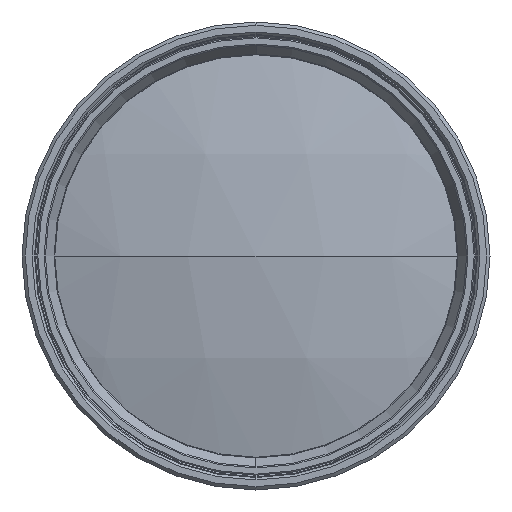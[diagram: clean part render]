
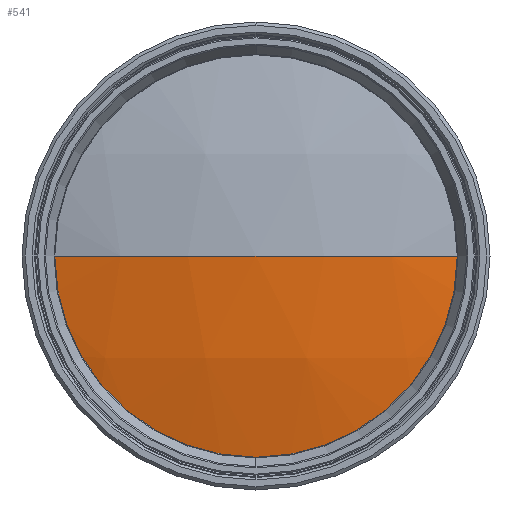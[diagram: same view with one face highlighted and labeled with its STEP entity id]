
A CAD part, left-side view. The second image highlights one B-rep face of the part: STEP entity #541.
In plain terms, the highlighted spherical face has radius 115.5 mm.
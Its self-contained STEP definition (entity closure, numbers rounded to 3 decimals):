
#21 = CARTESIAN_POINT ( 'NONE',  ( 7.301, 0., 0. ) ) ;
#513 = DIRECTION ( 'NONE',  ( 0., 0., 1. ) ) ;
#541 = ADVANCED_FACE ( 'NONE', ( #3024 ), #4158, .T. ) ;
#588 = EDGE_CURVE ( 'NONE', #2260, #1467, #1430, .T. ) ;
#594 = AXIS2_PLACEMENT_3D ( 'NONE', #1066, #4423, #1541 ) ;
#870 = EDGE_LOOP ( 'NONE', ( #1583, #5329, #5629, #1795 ) ) ;
#985 = AXIS2_PLACEMENT_3D ( 'NONE', #5518, #2607, #6005 ) ;
#1066 = CARTESIAN_POINT ( 'NONE',  ( 118.783, 0., 0. ) ) ;
#1430 = CIRCLE ( 'NONE', #594, 115.5 ) ;
#1456 = DIRECTION ( 'NONE',  ( 0., 0., -1. ) ) ;
#1467 = VERTEX_POINT ( 'NONE', #6143 ) ;
#1541 = DIRECTION ( 'NONE',  ( 0., 1., 0. ) ) ;
#1583 = ORIENTED_EDGE ( 'NONE', *, *, #4692, .T. ) ;
#1795 = ORIENTED_EDGE ( 'NONE', *, *, #3845, .T. ) ;
#2235 = AXIS2_PLACEMENT_3D ( 'NONE', #2739, #6126, #3218 ) ;
#2260 = VERTEX_POINT ( 'NONE', #3101 ) ;
#2386 = EDGE_CURVE ( 'NONE', #3362, #1467, #3843, .T. ) ;
#2537 = VERTEX_POINT ( 'NONE', #2731 ) ;
#2607 = DIRECTION ( 'NONE',  ( -1., 0., 0. ) ) ;
#2731 = CARTESIAN_POINT ( 'NONE',  ( 7.301, 0., -30.2 ) ) ;
#2739 = CARTESIAN_POINT ( 'NONE',  ( 118.783, 0., 0. ) ) ;
#2793 = CIRCLE ( 'NONE', #4869, 30.2 ) ;
#3024 = FACE_OUTER_BOUND ( 'NONE', #870, .T. ) ;
#3101 = CARTESIAN_POINT ( 'NONE',  ( 7.301, -30.2, 0. ) ) ;
#3218 = DIRECTION ( 'NONE',  ( 1., 0., 0. ) ) ;
#3258 = CARTESIAN_POINT ( 'NONE',  ( 7.301, 30.2, 0. ) ) ;
#3362 = VERTEX_POINT ( 'NONE', #3258 ) ;
#3376 = DIRECTION ( 'NONE',  ( -1., 0., 0. ) ) ;
#3843 = CIRCLE ( 'NONE', #2235, 115.5 ) ;
#3845 = EDGE_CURVE ( 'NONE', #3362, #2537, #2793, .T. ) ;
#3986 = CIRCLE ( 'NONE', #985, 30.2 ) ;
#4158 = SPHERICAL_SURFACE ( 'NONE', #4574, 115.5 ) ;
#4346 = CARTESIAN_POINT ( 'NONE',  ( 118.783, 0., 0. ) ) ;
#4423 = DIRECTION ( 'NONE',  ( 0., 0., -1. ) ) ;
#4574 = AXIS2_PLACEMENT_3D ( 'NONE', #4346, #1456, #4842 ) ;
#4692 = EDGE_CURVE ( 'NONE', #2537, #2260, #3986, .T. ) ;
#4842 = DIRECTION ( 'NONE',  ( 0., 1., 0. ) ) ;
#4869 = AXIS2_PLACEMENT_3D ( 'NONE', #21, #3376, #513 ) ;
#5329 = ORIENTED_EDGE ( 'NONE', *, *, #588, .T. ) ;
#5518 = CARTESIAN_POINT ( 'NONE',  ( 7.301, 0., 0. ) ) ;
#5629 = ORIENTED_EDGE ( 'NONE', *, *, #2386, .F. ) ;
#6005 = DIRECTION ( 'NONE',  ( 0., 0., 1. ) ) ;
#6126 = DIRECTION ( 'NONE',  ( 0., 0., 1. ) ) ;
#6143 = CARTESIAN_POINT ( 'NONE',  ( 3.283, 0., 0. ) ) ;
